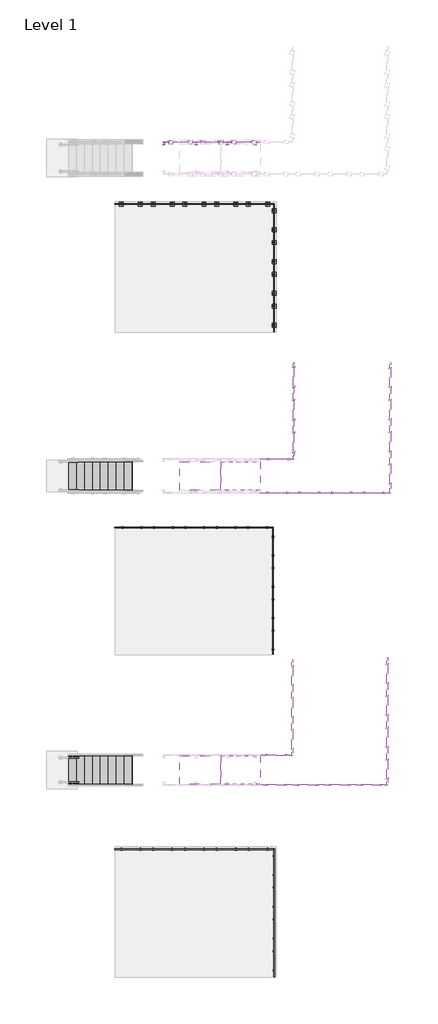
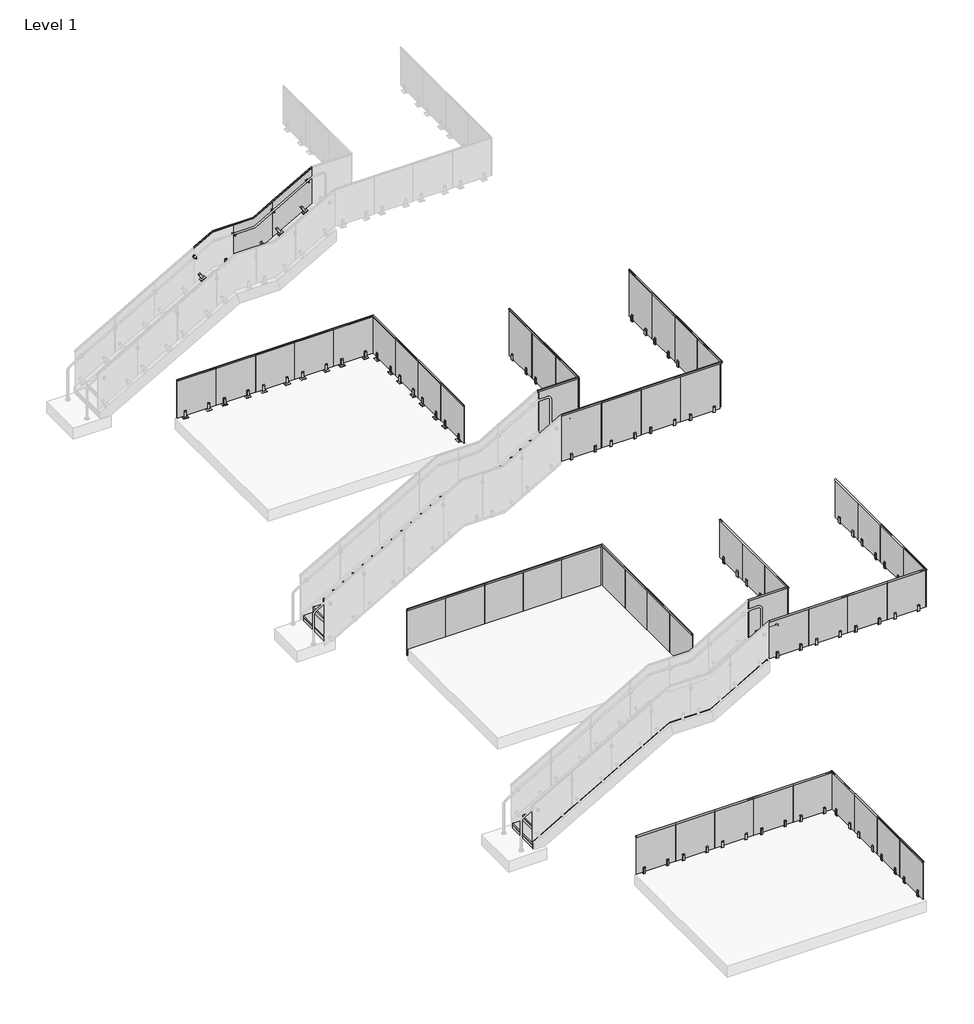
# One storey, part 16 of 17: 10 railings, 4 stair flights, 2 slabs.
"""IFC4 building model written with IfcOpenShell, lengths in millimetres."""

from ifc_helpers import new_model, si_unit, point, frame, frame_2d, origin, place, context, project, spatial, polyline, circle_curve, trimmed, segment, composite_curve, outline, extrude, faceted_brep, transform, mapped, element, save
from ifc_brep_helpers import plane_surface, cylinder_surface, revolved_surface, advanced_brep
from components import railing_c612db08, railing_e7858bb1, railing_b285644a, railing_d0d42c22, railing_5af45680, railing_caa6281a, railing_009aba57, standard_glass_13887297, non_monolithic_landing_f4672ff2, non_monolithic_landing_0b36ebb0, stair_flight_e342edde, stair_flight_a8a5efef, stair_flight_8ad0e3ce, stair_flight_972f2d04

model = new_model("IFC4")

# Units and contexts
model_context = context("Model", 3, world=origin())
ifc_project = project(units=[si_unit("LENGTHUNIT", "METRE", prefix="MILLI")], contexts=[model_context])

# Site, building, storey
site = spatial("IfcSite", under=ifc_project)
building = spatial("IfcBuilding", under=site)
storey = spatial("IfcBuildingStorey", under=building, Name="Level 1", Elevation=0.0)

# Railings
placement = place(None, origin())
element("IfcRailing", 1, ObjectType="VIVA-VISIO-Glass-Concrete Surface Mount-Stair_Upper", at=placement, inside=storey, context=model_context, shape_type="SolidModel", body=[
    faceted_brep([(29407.4425061, -1405.5829549, 3542.8464286), (29407.4425061, -1383.8540486, 3542.8464286), (29407.4425061, -1383.8540486, 3513.5919505), (29407.4425061, -1388.3685017, 3513.5919505), (29407.4425061, -1388.3685017, 3538.4582569), (29407.4425061, -1401.0685017, 3538.4582569), (29407.4425061, -1401.0685017, 3513.5919505), (29407.4425061, -1405.5829549, 3513.5919505), (30452.8112561, -1405.5829549, 4140.2), (30452.8112561, -1405.5829549, 4110.9455219), (30452.8112561, -1401.0685017, 4110.9455219), (30452.8112561, -1401.0685017, 4135.8118283), (30452.8112561, -1388.3685017, 4135.8118283), (30452.8112561, -1388.3685017, 4110.9455219), (30452.8112561, -1383.8540486, 4110.9455219), (30452.8112561, -1383.8540486, 4140.2)], [[[0, 1, 2, 3, 4, 5, 6, 7]], [[8, 9, 10, 11, 12, 13, 14, 15]], [[1, 0, 8, 15]], [[2, 1, 15, 14]], [[3, 2, 14, 13]], [[4, 3, 13, 12]], [[5, 4, 12, 11]], [[6, 5, 11, 10]], [[7, 6, 10, 9]], [[0, 7, 9, 8]]]),
    extrude(outline(polyline([(0.0, -127.0000001), (0.0, 0.0), (127.0, 0.0), (127.0, -127.0000001), (0.0, -127.0000001)])), frame((30205.7490665, -1458.2117549, 2941.2860023), z_axis=(-0.4961389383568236, 0.0, 0.8682431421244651), x_axis=(0.0, 1.0, 0.0)), (0.0, 0.0, 1.0), 12.7),
    extrude(outline(polyline([(0.0, -12.7), (0.0, 0.0), (50.8, 0.0), (50.8, -12.7), (0.0, -12.7)])), frame((30238.8291303, -1388.3617549, 2960.1888959), z_axis=(-0.49613893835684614, 0.0, 0.8682431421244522), x_axis=(0.8682431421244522, 0.0, 0.49613893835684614)), (0.0, 0.0, 1.0), 50.8),
    extrude(outline(polyline([(0.0, 0.0), (139.7, 0.0), (166.6875, -11.1125), (166.6875, -19.05), (0.0, -19.05), (0.0, 0.0)])), frame((30227.0148218, -1420.1117549, 2980.8639357), z_axis=(0.8682431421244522, 0.0, 0.49613893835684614), x_axis=(-0.49613893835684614, 0.0, 0.8682431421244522)), (0.0, 0.0, 1.0), 50.8),
    extrude(outline(polyline([(0.0, -50.8), (0.0, -31.75), (166.6875, -31.75), (166.6875, -39.6875), (139.7, -50.8), (0.0, -50.8)])), frame((30227.0148218, -1420.1117549, 2980.8639357), z_axis=(0.8682431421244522, 0.0, 0.49613893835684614), x_axis=(-0.49613893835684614, 0.0, 0.8682431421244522)), (0.0, 0.0, 1.0), 50.8),
    extrude(outline(polyline([(4136.1482161, 30449.2255527), (3555.5767875, 29433.2255527), (2556.7751106, 29433.2255527), (3137.3465392, 30449.2255527), (4136.1482161, 30449.2255527)])), frame((0.0, -1401.0617549, 0.0), z_axis=(0.0, 1.0, 0.0), x_axis=(0.0, 0.0, 1.0)), (0.0, 0.0, 1.0), 12.7),
    extrude(outline(polyline([(0.0, -127.0000001), (0.0, 0.0), (127.0, 0.0), (127.0, -127.0000001), (0.0, -127.0000001)])), frame((29565.6690665, -1458.2117549, 2575.5260023), z_axis=(-0.4961389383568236, 0.0, 0.8682431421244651), x_axis=(0.0, 1.0, 0.0)), (0.0, 0.0, 1.0), 12.7),
    extrude(outline(polyline([(0.0, -12.7), (0.0, 0.0), (50.8, 0.0), (50.8, -12.7), (0.0, -12.7)])), frame((29598.7491303, -1388.3617549, 2594.4288959), z_axis=(-0.49613893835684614, 0.0, 0.8682431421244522), x_axis=(0.8682431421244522, 0.0, 0.49613893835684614)), (0.0, 0.0, 1.0), 50.8),
    extrude(outline(polyline([(0.0, 0.0), (139.7, 0.0), (166.6875, -11.1125), (166.6875, -19.05), (0.0, -19.05), (0.0, 0.0)])), frame((29586.9348218, -1420.1117549, 2615.1039357), z_axis=(0.8682431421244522, 0.0, 0.49613893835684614), x_axis=(-0.49613893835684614, 0.0, 0.8682431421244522)), (0.0, 0.0, 1.0), 50.8),
    extrude(outline(polyline([(0.0, -50.8), (0.0, -31.75), (166.6875, -31.75), (166.6875, -39.6875), (139.7, -50.8), (0.0, -50.8)])), frame((29586.9348218, -1420.1117549, 2615.1039357), z_axis=(0.8682431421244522, 0.0, 0.49613893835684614), x_axis=(-0.49613893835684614, 0.0, 0.8682431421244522)), (0.0, 0.0, 1.0), 50.8),
    extrude(outline(composite_curve([segment(trimmed(circle_curve(frame_2d((0.0, 7.0)), 7.0), [point((0.0, 14.0))], [point((0.0, 0.0))], False, "CARTESIAN"), True, "CONTINUOUS"), segment(trimmed(circle_curve(frame_2d((0.0, 7.0)), 7.0), [point((0.0, 0.0))], [point((0.0, 14.0))], False, "CARTESIAN"), True, "CONTINUOUS")], self_intersect=False)), frame((30334.6386992, -1469.9316158, 3785.9221988), z_axis=(-0.5018548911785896, 0.0, 0.8649518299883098), x_axis=(-0.8649518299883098, 0.0, -0.5018548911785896)), (0.0, 0.0, 1.0), 52.8378352),
    extrude(outline(composite_curve([segment(polyline([(5.2466064, -13.9247915), (4.2292194, -14.9511811)]), True, "CONTINUOUS"), segment(trimmed(circle_curve(frame_2d((3.1638975, -13.8952033)), 1.5), [point((4.2292194, -14.9511811))], [point((2.0329757, -14.8806047))], False, "CARTESIAN"), True, "CONTINUOUS"), segment(trimmed(circle_curve(frame_2d((18.6575252, -0.3952033)), 22.05), [point((2.0329757, -14.8806047))], [point((2.0329757, 14.0901982))], False, "CARTESIAN"), True, "CONTINUOUS"), segment(trimmed(circle_curve(frame_2d((3.1638975, 13.1047967)), 1.5), [point((2.0329757, 14.0901982))], [point((4.2292194, 14.1607746))], False, "CARTESIAN"), True, "CONTINUOUS"), segment(polyline([(4.2292194, 14.1607746), (5.2466064, 13.134385)]), True, "CONTINUOUS"), segment(trimmed(circle_curve(frame_2d((18.6575252, -0.3952033)), 19.05), [point((5.2466064, 13.134385))], [point((5.2466064, -13.9247915))], True, "CARTESIAN"), True, "CONTINUOUS")], self_intersect=False)), frame((30270.1709172, -1478.6588481, 3813.6633816), z_axis=(0.8664916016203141, 0.0, 0.49919165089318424), x_axis=(-0.49919165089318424, 0.0, 0.8664916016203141)), (0.0, 0.0, 1.0), 74.5229187),
    extrude(outline(composite_curve([segment(trimmed(circle_curve(frame_2d((3808.0587143, 30321.8425061)), 11.0132813), [point((3808.0587143, 30332.8557873))], [point((3808.0587143, 30310.8292248))], False, "CARTESIAN"), True, "CONTINUOUS"), segment(trimmed(circle_curve(frame_2d((3808.0587143, 30321.8425061)), 11.0132813), [point((3808.0587143, 30310.8292248))], [point((3808.0587143, 30332.8557873))], False, "CARTESIAN"), True, "CONTINUOUS")], self_intersect=False)), frame((0.0, -1489.9617549, 0.0), z_axis=(0.0, 1.0, 0.0), x_axis=(0.0, 0.0, 1.0)), (0.0, 0.0, 1.0), 79.2757812),
    advanced_brep(
    [(30321.8425061, -1378.7375361, 3808.0587143), (30321.8425061, -1378.7375361, 3771.9430893), (30321.8425061, -1378.7375361, 3844.1743393), (30321.8425061, -1410.6859736, 3771.9430893), (30321.8425061, -1410.6859736, 3808.0587143), (30321.8425061, -1410.6859736, 3844.1743393), (30321.8425061, -1408.7015986, 3769.9587143), (30321.8425061, -1408.7015986, 3846.1587143), (30321.8425061, -1401.0617549, 3769.9587143), (30321.8425061, -1401.0617549, 3846.1587143), (30321.8425061, -1401.0617549, 3795.3587143), (30321.8425061, -1401.0617549, 3820.7587143), (30321.8425061, -1388.3617549, 3795.3587143), (30321.8425061, -1388.3617549, 3820.7587143), (30321.8425061, -1388.3617549, 3769.9587143), (30321.8425061, -1388.3617549, 3846.1587143), (30321.8425061, -1380.7219111, 3769.9587143), (30321.8425061, -1380.7219111, 3846.1587143)],
    [
        (0, 1),
        (1, 2, circle_curve(frame((30321.8425061, -1378.7375361, 3808.0587143), z_axis=(0.0, 1.0, 0.0), x_axis=(0.0, 0.0, 1.0)), 36.115625)),
        (2, 0),
        (2, 1, circle_curve(frame((30321.8425061, -1378.7375361, 3808.0587143), z_axis=(0.0, 1.0, 0.0), x_axis=(0.0, 0.0, 1.0)), 36.115625)),
        (3, 4),
        (4, 5),
        (5, 3, circle_curve(frame((30321.8425061, -1410.6859736, 3808.0587143), z_axis=(0.0, -1.0, 0.0), x_axis=(0.0, 0.0, 1.0)), 36.115625)),
        (3, 5, circle_curve(frame((30321.8425061, -1410.6859736, 3808.0587143), z_axis=(0.0, -1.0, 0.0), x_axis=(0.0, 0.0, 1.0)), 36.115625)),
        (6, 3),
        (5, 7),
        (7, 6, circle_curve(frame((30321.8425061, -1408.7015986, 3808.0587143), z_axis=(0.0, -1.0, 0.0), x_axis=(0.0, 0.0, 1.0)), 38.1)),
        (6, 7, circle_curve(frame((30321.8425061, -1408.7015986, 3808.0587143), z_axis=(0.0, -1.0, 0.0), x_axis=(0.0, 0.0, 1.0)), 38.1)),
        (8, 6),
        (7, 9),
        (9, 8, circle_curve(frame((30321.8425061, -1401.0617549, 3808.0587143), z_axis=(0.0, -1.0, 0.0), x_axis=(0.0, 0.0, 1.0)), 38.1)),
        (8, 9, circle_curve(frame((30321.8425061, -1401.0617549, 3808.0587143), z_axis=(0.0, -1.0, 0.0), x_axis=(0.0, 0.0, 1.0)), 38.1)),
        (10, 8),
        (9, 11),
        (11, 10, circle_curve(frame((30321.8425061, -1401.0617549, 3808.0587143), z_axis=(0.0, -1.0, 0.0), x_axis=(0.0, 0.0, 1.0)), 12.7)),
        (10, 11, circle_curve(frame((30321.8425061, -1401.0617549, 3808.0587143), z_axis=(0.0, -1.0, 0.0), x_axis=(0.0, 0.0, 1.0)), 12.7)),
        (12, 10),
        (11, 13),
        (13, 12, circle_curve(frame((30321.8425061, -1388.3617549, 3808.0587143), z_axis=(0.0, -1.0, 0.0), x_axis=(0.0, 0.0, 1.0)), 12.7)),
        (12, 13, circle_curve(frame((30321.8425061, -1388.3617549, 3808.0587143), z_axis=(0.0, -1.0, 0.0), x_axis=(0.0, 0.0, 1.0)), 12.7)),
        (14, 12),
        (13, 15),
        (15, 14, circle_curve(frame((30321.8425061, -1388.3617549, 3808.0587143), z_axis=(0.0, -1.0, 0.0), x_axis=(0.0, 0.0, 1.0)), 38.1)),
        (14, 15, circle_curve(frame((30321.8425061, -1388.3617549, 3808.0587143), z_axis=(0.0, -1.0, 0.0), x_axis=(0.0, 0.0, 1.0)), 38.1)),
        (16, 14),
        (15, 17),
        (17, 16, circle_curve(frame((30321.8425061, -1380.7219111, 3808.0587143), z_axis=(0.0, -1.0, 0.0), x_axis=(0.0, 0.0, 1.0)), 38.1)),
        (16, 17, circle_curve(frame((30321.8425061, -1380.7219111, 3808.0587143), z_axis=(0.0, -1.0, 0.0), x_axis=(0.0, 0.0, 1.0)), 38.1)),
        (1, 16),
        (17, 2),
    ],
    [
        plane_surface(frame((30321.8425061, -1378.7375361, 3808.0587143), z_axis=(0.0, 1.0, 0.0), x_axis=(0.0, 0.0, 1.0))),
        plane_surface(frame((30321.8425061, -1410.6859736, 3808.0587143), z_axis=(0.0, -1.0, 0.0), x_axis=(0.0, 0.0, 1.0))),
        revolved_surface(polyline([(30321.8425061, -1410.6859736, 3844.1743393), (30321.8425061, -1408.7015986, 3846.1587143)]), (30321.8425061, -1342.6219111, 3808.0587143), (0.0, 1.0, 0.0)),
        cylinder_surface(frame((30321.8425061, -1342.6219111, 3808.0587143), z_axis=(0.0, 1.0, 0.0), x_axis=(0.0, 0.0, 1.0)), 38.1),
        plane_surface(frame((30321.8425061, -1401.0617549, 3808.0587143), z_axis=(0.0, 1.0, 0.0), x_axis=(0.0, 0.0, 1.0))),
        cylinder_surface(frame((30321.8425061, -1342.6219111, 3808.0587143), z_axis=(0.0, 1.0, 0.0), x_axis=(0.0, 0.0, 1.0)), 12.7),
        plane_surface(frame((30321.8425061, -1388.3617549, 3808.0587143), z_axis=(0.0, -1.0, 0.0), x_axis=(0.0, 0.0, 1.0))),
        revolved_surface(polyline([(30321.8425061, -1380.7219111, 3846.1587143), (30321.8425061, -1378.7375361, 3844.1743393)]), (30321.8425061, -1342.6219111, 3808.0587143), (0.0, 1.0, 0.0)),
    ],
    [
        (0, [[1, 2, 3]]),
        (0, [[-3, 4, -1]]),
        (1, [[5, 6, 7]]),
        (1, [[-6, -5, 8]]),
        (2, [[9, -7, 10, 11]]),
        (2, [[-10, -8, -9, 12]]),
        (3, [[13, -11, 14, 15]]),
        (3, [[-14, -12, -13, 16]]),
        (4, [[17, -15, 18, 19]]),
        (4, [[-18, -16, -17, 20]]),
        (5, [[21, -19, 22, 23]]),
        (5, [[-22, -20, -21, 24]]),
        (6, [[25, -23, 26, 27]]),
        (6, [[-26, -24, -25, 28]]),
        (3, [[29, -27, 30, 31]]),
        (3, [[-30, -28, -29, 32]]),
        (7, [[33, -31, 34, -2]]),
        (7, [[-34, -32, -33, -4]]),
    ],
),
])
element("IfcRailing", 2, ObjectType="VIVA-VISIO-Glass-Concrete Surface Mount-Landing", at=placement, inside=storey, context=model_context, shape_type="SolidModel", body=[
    faceted_brep([(29408.2362561, -1405.5829549, 3543.3), (29408.2362561, -1405.5829549, 3514.0455219), (29408.2362561, -1401.0685017, 3514.0455219), (29408.2362561, -1401.0685017, 3538.9118283), (29408.2362561, -1388.3685017, 3538.9118283), (29408.2362561, -1388.3685017, 3514.0455219), (29408.2362561, -1383.8540486, 3514.0455219), (29408.2362561, -1383.8540486, 3543.3), (27395.2862561, -1383.8540486, 3002.6428571), (27395.2862561, -1405.5829549, 3002.6428571), (27862.0112561, -1405.5829549, 3269.3428571), (27862.0112561, -1383.8540486, 3269.3428571), (27407.8863063, -1383.8540486, 2980.5884077), (27868.7565928, -1383.8540486, 3243.9428571), (27407.8863063, -1388.3685017, 2980.5884077), (27868.7565928, -1388.3685017, 3243.9428571), (27397.1762636, -1388.3685017, 2999.3346897), (27863.0230566, -1388.3685017, 3265.5328571), (27397.1762636, -1401.0685017, 2999.3346897), (27863.0230566, -1401.0685017, 3265.5328571), (27407.8863063, -1401.0685017, 2980.5884077), (27868.7565928, -1401.0685017, 3243.9428571), (27407.8863063, -1405.5829549, 2980.5884077), (27868.7565928, -1405.5829549, 3243.9428571), (28928.8112561, -1405.5829549, 3269.3428571), (28928.8112561, -1383.8540486, 3269.3428571), (28935.5565928, -1383.8540486, 3243.9428571), (28935.5565928, -1388.3685017, 3243.9428571), (28929.8230566, -1388.3685017, 3265.5328571), (28929.8230566, -1401.0685017, 3265.5328571), (28935.5565928, -1401.0685017, 3243.9428571), (28935.5565928, -1405.5829549, 3243.9428571), (27379.4112561, -1405.5829549, 2993.5732226), (27379.4112561, -1383.8540486, 2993.5732226), (27379.4112561, -1383.8540486, 2964.3201685), (27379.4112561, -1388.3685017, 2964.3201685), (27379.4112561, -1388.3685017, 2989.1852645), (27379.4112561, -1401.0685017, 2989.1852645), (27379.4112561, -1401.0685017, 2964.3201685), (27379.4112561, -1405.5829549, 2964.3201685)], [[[0, 1, 2, 3, 4, 5, 6, 7]], [[8, 9, 10, 11]], [[12, 8, 11, 13]], [[14, 12, 13, 15]], [[16, 14, 15, 17]], [[18, 16, 17, 19]], [[20, 18, 19, 21]], [[22, 20, 21, 23]], [[9, 22, 23, 10]], [[11, 10, 24, 25]], [[13, 11, 25, 26]], [[15, 13, 26, 27]], [[17, 15, 27, 28]], [[19, 17, 28, 29]], [[21, 19, 29, 30]], [[23, 21, 30, 31]], [[10, 23, 31, 24]], [[25, 24, 0, 7]], [[26, 25, 7, 6]], [[27, 26, 6, 5]], [[28, 27, 5, 4]], [[29, 28, 4, 3]], [[30, 29, 3, 2]], [[31, 30, 2, 1]], [[24, 31, 1, 0]], [[32, 33, 34, 35, 36, 37, 38, 39]], [[33, 32, 9, 8]], [[34, 33, 8, 12]], [[35, 34, 12, 14]], [[36, 35, 14, 16]], [[37, 36, 16, 18]], [[38, 37, 18, 20]], [[39, 38, 20, 22]], [[32, 39, 22, 9]]]),
    extrude(outline(polyline([(0.0, -127.0000001), (0.0, 0.0), (127.0, 0.0), (127.0, -127.0000001), (0.0, -127.0000001)])), frame((29151.8078165, -1458.2117549, 2339.0338595), z_axis=(-0.4961389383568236, 0.0, 0.8682431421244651), x_axis=(0.0, 1.0, 0.0)), (0.0, 0.0, 1.0), 12.7),
    extrude(outline(polyline([(0.0, -12.7), (0.0, 0.0), (50.8, 0.0), (50.8, -12.7), (0.0, -12.7)])), frame((29184.8878803, -1388.3617549, 2357.936753), z_axis=(-0.49613893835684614, 0.0, 0.8682431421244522), x_axis=(0.8682431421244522, 0.0, 0.49613893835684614)), (0.0, 0.0, 1.0), 50.8),
    extrude(outline(polyline([(0.0, 0.0), (139.7, 0.0), (166.6875, -11.1125), (166.6875, -19.05), (0.0, -19.05), (0.0, 0.0)])), frame((29173.0735718, -1420.1117549, 2378.6117929), z_axis=(0.8682431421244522, 0.0, 0.49613893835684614), x_axis=(-0.49613893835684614, 0.0, 0.8682431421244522)), (0.0, 0.0, 1.0), 50.8),
    extrude(outline(polyline([(0.0, -50.8), (0.0, -31.75), (166.6875, -31.75), (166.6875, -39.6875), (139.7, -50.8), (0.0, -50.8)])), frame((29173.0735718, -1420.1117549, 2378.6117929), z_axis=(0.8682431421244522, 0.0, 0.49613893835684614), x_axis=(-0.49613893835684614, 0.0, 0.8682431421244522)), (0.0, 0.0, 1.0), 50.8),
    extrude(outline(polyline([(28666.5562561, -1458.2117549), (28539.5562561, -1458.2117549), (28539.5562561, -1331.2117549), (28666.5562561, -1331.2117549), (28666.5562561, -1458.2117549)])), frame((0.0, 0.0, 2208.8928571), z_axis=(0.0, 0.0, 1.0), x_axis=(1.0, 0.0, 0.0)), (0.0, 0.0, 1.0), 12.7),
    extrude(outline(polyline([(28577.6562561, -1401.0617549), (28577.6562561, -1388.3617549), (28628.4562561, -1388.3617549), (28628.4562561, -1401.0617549), (28577.6562561, -1401.0617549)])), frame((0.0, 0.0, 2208.8928571), z_axis=(0.0, 0.0, 1.0), x_axis=(1.0, 0.0, 0.0)), (0.0, 0.0, 1.0), 50.8),
    extrude(outline(polyline([(-1420.1117549, 2232.7053571), (-1420.1117549, 2372.4053571), (-1408.9992549, 2399.3928571), (-1401.0617549, 2399.3928571), (-1401.0617549, 2232.7053571), (-1420.1117549, 2232.7053571)])), frame((28577.6562561, 0.0, 0.0), z_axis=(1.0, 0.0, 0.0), x_axis=(0.0, 1.0, 0.0)), (0.0, 0.0, 1.0), 50.8),
    extrude(outline(polyline([(-1369.3117549, 2232.7053571), (-1388.3617549, 2232.7053571), (-1388.3617549, 2399.3928571), (-1380.4242549, 2399.3928571), (-1369.3117549, 2372.4053571), (-1369.3117549, 2232.7053571)])), frame((28577.6562561, 0.0, 0.0), z_axis=(1.0, 0.0, 0.0), x_axis=(0.0, 1.0, 0.0)), (0.0, 0.0, 1.0), 50.8),
    extrude(outline(composite_curve([segment(trimmed(circle_curve(frame_2d((0.0, 7.0)), 7.0), [point((0.0, 14.0))], [point((0.0, 0.0))], False, "CARTESIAN"), True, "CONTINUOUS"), segment(trimmed(circle_curve(frame_2d((0.0, 7.0)), 7.0), [point((0.0, 0.0))], [point((0.0, 14.0))], False, "CARTESIAN"), True, "CONTINUOUS")], self_intersect=False)), frame((28401.7612561, -1469.9316158, 2982.4079722), z_axis=(-0.0016124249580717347, 0.0, 0.9999987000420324), x_axis=(-0.9999987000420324, 0.0, -0.0016124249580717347)), (0.0, 0.0, 1.0), 52.8378352),
    extrude(outline(composite_curve([segment(trimmed(circle_curve(frame_2d((18.6575252, 0.3952033)), 19.05), [point((5.2466064, 13.9247915))], [point((5.2466064, -13.134385))], True, "CARTESIAN"), True, "CONTINUOUS"), segment(polyline([(5.2466064, -13.134385), (4.2292193, -14.1607746)]), True, "CONTINUOUS"), segment(trimmed(circle_curve(frame_2d((3.1638974, -13.1047967)), 1.5), [point((4.2292193, -14.1607746))], [point((2.0329757, -14.0901982))], False, "CARTESIAN"), True, "CONTINUOUS"), segment(trimmed(circle_curve(frame_2d((18.6575252, 0.3952033)), 22.05), [point((2.0329757, -14.0901982))], [point((2.0329757, 14.8806047))], False, "CARTESIAN"), True, "CONTINUOUS"), segment(trimmed(circle_curve(frame_2d((3.1638974, 13.8952033)), 1.5), [point((2.0329757, 14.8806047))], [point((4.2292193, 14.9511811))], False, "CARTESIAN"), True, "CONTINUOUS"), segment(polyline([(4.2292193, 14.9511811), (5.2466064, 13.9247915)]), True, "CONTINUOUS")], self_intersect=False)), frame((28437.5288142, -1478.6588481, 3038.5796008), z_axis=(-0.9999989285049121, 0.0, 0.0014638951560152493), x_axis=(0.0014638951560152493, 0.0, 0.9999989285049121)), (0.0, 0.0, 1.0), 74.5229187),
    extrude(outline(composite_curve([segment(trimmed(circle_curve(frame_2d((3007.9768571, 28401.7612561)), 11.0132813), [point((3007.9768571, 28412.7745373))], [point((3007.9768571, 28390.7479748))], False, "CARTESIAN"), True, "CONTINUOUS"), segment(trimmed(circle_curve(frame_2d((3007.9768571, 28401.7612561)), 11.0132813), [point((3007.9768571, 28390.7479748))], [point((3007.9768571, 28412.7745373))], False, "CARTESIAN"), True, "CONTINUOUS")], self_intersect=False)), frame((0.0, -1489.9617549, 0.0), z_axis=(0.0, 1.0, 0.0), x_axis=(0.0, 0.0, 1.0)), (0.0, 0.0, 1.0), 79.2757812),
    advanced_brep(
    [(28401.7612561, -1378.7375361, 3007.9768571), (28401.7612561, -1378.7375361, 2971.8612321), (28401.7612561, -1378.7375361, 3044.0924821), (28401.7612561, -1410.6859736, 2971.8612321), (28401.7612561, -1410.6859736, 3007.9768571), (28401.7612561, -1410.6859736, 3044.0924821), (28401.7612561, -1408.7015986, 2969.8768571), (28401.7612561, -1408.7015986, 3046.0768571), (28401.7612561, -1401.0617549, 2969.8768571), (28401.7612561, -1401.0617549, 3046.0768571), (28401.7612561, -1401.0617549, 2995.2768571), (28401.7612561, -1401.0617549, 3020.6768571), (28401.7612561, -1388.3617549, 2995.2768571), (28401.7612561, -1388.3617549, 3020.6768571), (28401.7612561, -1388.3617549, 2969.8768571), (28401.7612561, -1388.3617549, 3046.0768571), (28401.7612561, -1380.7219111, 2969.8768571), (28401.7612561, -1380.7219111, 3046.0768571)],
    [
        (0, 1),
        (1, 2, circle_curve(frame((28401.7612561, -1378.7375361, 3007.9768571), z_axis=(0.0, 1.0, 0.0), x_axis=(0.0, 0.0, 1.0)), 36.115625)),
        (2, 0),
        (2, 1, circle_curve(frame((28401.7612561, -1378.7375361, 3007.9768571), z_axis=(0.0, 1.0, 0.0), x_axis=(0.0, 0.0, 1.0)), 36.115625)),
        (3, 4),
        (4, 5),
        (5, 3, circle_curve(frame((28401.7612561, -1410.6859736, 3007.9768571), z_axis=(0.0, -1.0, 0.0), x_axis=(0.0, 0.0, 1.0)), 36.115625)),
        (3, 5, circle_curve(frame((28401.7612561, -1410.6859736, 3007.9768571), z_axis=(0.0, -1.0, 0.0), x_axis=(0.0, 0.0, 1.0)), 36.115625)),
        (6, 3),
        (5, 7),
        (7, 6, circle_curve(frame((28401.7612561, -1408.7015986, 3007.9768571), z_axis=(0.0, -1.0, 0.0), x_axis=(0.0, 0.0, 1.0)), 38.1)),
        (6, 7, circle_curve(frame((28401.7612561, -1408.7015986, 3007.9768571), z_axis=(0.0, -1.0, 0.0), x_axis=(0.0, 0.0, 1.0)), 38.1)),
        (8, 6),
        (7, 9),
        (9, 8, circle_curve(frame((28401.7612561, -1401.0617549, 3007.9768571), z_axis=(0.0, -1.0, 0.0), x_axis=(0.0, 0.0, 1.0)), 38.1)),
        (8, 9, circle_curve(frame((28401.7612561, -1401.0617549, 3007.9768571), z_axis=(0.0, -1.0, 0.0), x_axis=(0.0, 0.0, 1.0)), 38.1)),
        (10, 8),
        (9, 11),
        (11, 10, circle_curve(frame((28401.7612561, -1401.0617549, 3007.9768571), z_axis=(0.0, -1.0, 0.0), x_axis=(0.0, 0.0, 1.0)), 12.7)),
        (10, 11, circle_curve(frame((28401.7612561, -1401.0617549, 3007.9768571), z_axis=(0.0, -1.0, 0.0), x_axis=(0.0, 0.0, 1.0)), 12.7)),
        (12, 10),
        (11, 13),
        (13, 12, circle_curve(frame((28401.7612561, -1388.3617549, 3007.9768571), z_axis=(0.0, -1.0, 0.0), x_axis=(0.0, 0.0, 1.0)), 12.7)),
        (12, 13, circle_curve(frame((28401.7612561, -1388.3617549, 3007.9768571), z_axis=(0.0, -1.0, 0.0), x_axis=(0.0, 0.0, 1.0)), 12.7)),
        (14, 12),
        (13, 15),
        (15, 14, circle_curve(frame((28401.7612561, -1388.3617549, 3007.9768571), z_axis=(0.0, -1.0, 0.0), x_axis=(0.0, 0.0, 1.0)), 38.1)),
        (14, 15, circle_curve(frame((28401.7612561, -1388.3617549, 3007.9768571), z_axis=(0.0, -1.0, 0.0), x_axis=(0.0, 0.0, 1.0)), 38.1)),
        (16, 14),
        (15, 17),
        (17, 16, circle_curve(frame((28401.7612561, -1380.7219111, 3007.9768571), z_axis=(0.0, -1.0, 0.0), x_axis=(0.0, 0.0, 1.0)), 38.1)),
        (16, 17, circle_curve(frame((28401.7612561, -1380.7219111, 3007.9768571), z_axis=(0.0, -1.0, 0.0), x_axis=(0.0, 0.0, 1.0)), 38.1)),
        (1, 16),
        (17, 2),
    ],
    [
        plane_surface(frame((28401.7612561, -1378.7375361, 3007.9768571), z_axis=(0.0, 1.0, 0.0), x_axis=(0.0, 0.0, 1.0))),
        plane_surface(frame((28401.7612561, -1410.6859736, 3007.9768571), z_axis=(0.0, -1.0, 0.0), x_axis=(0.0, 0.0, 1.0))),
        revolved_surface(polyline([(28401.7612561, -1410.6859736, 3044.0924821), (28401.7612561, -1408.7015986, 3046.0768571)]), (28401.7612561, -1342.6219111, 3007.9768571), (0.0, 1.0, 0.0)),
        cylinder_surface(frame((28401.7612561, -1342.6219111, 3007.9768571), z_axis=(0.0, 1.0, 0.0), x_axis=(0.0, 0.0, 1.0)), 38.1),
        plane_surface(frame((28401.7612561, -1401.0617549, 3007.9768571), z_axis=(0.0, 1.0, 0.0), x_axis=(0.0, 0.0, 1.0))),
        cylinder_surface(frame((28401.7612561, -1342.6219111, 3007.9768571), z_axis=(0.0, 1.0, 0.0), x_axis=(0.0, 0.0, 1.0)), 12.7),
        plane_surface(frame((28401.7612561, -1388.3617549, 3007.9768571), z_axis=(0.0, -1.0, 0.0), x_axis=(0.0, 0.0, 1.0))),
        revolved_surface(polyline([(28401.7612561, -1380.7219111, 3046.0768571), (28401.7612561, -1378.7375361, 3044.0924821)]), (28401.7612561, -1342.6219111, 3007.9768571), (0.0, 1.0, 0.0)),
    ],
    [
        (0, [[1, 2, 3]]),
        (0, [[-3, 4, -1]]),
        (1, [[5, 6, 7]]),
        (1, [[-6, -5, 8]]),
        (2, [[9, -7, 10, 11]]),
        (2, [[-10, -8, -9, 12]]),
        (3, [[13, -11, 14, 15]]),
        (3, [[-14, -12, -13, 16]]),
        (4, [[17, -15, 18, 19]]),
        (4, [[-18, -16, -17, 20]]),
        (5, [[21, -19, 22, 23]]),
        (5, [[-22, -20, -21, 24]]),
        (6, [[25, -23, 26, 27]]),
        (6, [[-26, -24, -25, 28]]),
        (3, [[29, -27, 30, 31]]),
        (3, [[-30, -28, -29, 32]]),
        (7, [[33, -31, 34, -2]]),
        (7, [[-34, -32, -33, -4]]),
    ],
),
    extrude(outline(polyline([(28263.9662561, -1458.2117549), (28136.9662561, -1458.2117549), (28136.9662561, -1331.2117549), (28263.9662561, -1331.2117549), (28263.9662561, -1458.2117549)])), frame((0.0, 0.0, 2208.8928571), z_axis=(0.0, 0.0, 1.0), x_axis=(1.0, 0.0, 0.0)), (0.0, 0.0, 1.0), 12.7),
    extrude(outline(polyline([(28175.0662561, -1401.0617549), (28175.0662561, -1388.3617549), (28225.8662561, -1388.3617549), (28225.8662561, -1401.0617549), (28175.0662561, -1401.0617549)])), frame((0.0, 0.0, 2208.8928571), z_axis=(0.0, 0.0, 1.0), x_axis=(1.0, 0.0, 0.0)), (0.0, 0.0, 1.0), 50.8),
    extrude(outline(polyline([(-1420.1117549, 2232.7053571), (-1420.1117549, 2372.4053571), (-1408.9992549, 2399.3928571), (-1401.0617549, 2399.3928571), (-1401.0617549, 2232.7053571), (-1420.1117549, 2232.7053571)])), frame((28175.0662561, 0.0, 0.0), z_axis=(1.0, 0.0, 0.0), x_axis=(0.0, 1.0, 0.0)), (0.0, 0.0, 1.0), 50.8),
    extrude(outline(polyline([(-1369.3117549, 2232.7053571), (-1388.3617549, 2232.7053571), (-1388.3617549, 2399.3928571), (-1380.4242549, 2399.3928571), (-1369.3117549, 2372.4053571), (-1369.3117549, 2232.7053571)])), frame((28175.0662561, 0.0, 0.0), z_axis=(1.0, 0.0, 0.0), x_axis=(0.0, 1.0, 0.0)), (0.0, 0.0, 1.0), 50.8),
    extrude(outline(polyline([(0.0, -127.0000001), (0.0, 0.0), (127.0, 0.0), (127.0, -127.0000001), (0.0, -127.0000001)])), frame((27541.4478165, -1458.2117549, 2028.4281452), z_axis=(-0.4961389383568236, 0.0, 0.8682431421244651), x_axis=(0.0, 1.0, 0.0)), (0.0, 0.0, 1.0), 12.7),
    extrude(outline(polyline([(0.0, -12.7), (0.0, 0.0), (50.8, 0.0), (50.8, -12.7), (0.0, -12.7)])), frame((27574.5278803, -1388.3617549, 2047.3310387), z_axis=(-0.49613893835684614, 0.0, 0.8682431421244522), x_axis=(0.8682431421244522, 0.0, 0.49613893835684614)), (0.0, 0.0, 1.0), 50.8),
    extrude(outline(polyline([(0.0, 0.0), (139.7, 0.0), (166.6875, -11.1125), (166.6875, -19.05), (0.0, -19.05), (0.0, 0.0)])), frame((27562.7135718, -1420.1117549, 2068.0060786), z_axis=(0.8682431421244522, 0.0, 0.49613893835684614), x_axis=(-0.49613893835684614, 0.0, 0.8682431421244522)), (0.0, 0.0, 1.0), 50.8),
    extrude(outline(polyline([(0.0, -50.8), (0.0, -31.75), (166.6875, -31.75), (166.6875, -39.6875), (139.7, -50.8), (0.0, -50.8)])), frame((27562.7135718, -1420.1117549, 2068.0060786), z_axis=(0.8682431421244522, 0.0, 0.49613893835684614), x_axis=(-0.49613893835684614, 0.0, 0.8682431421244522)), (0.0, 0.0, 1.0), 50.8),
    extrude(outline(composite_curve([segment(trimmed(circle_curve(frame_2d((0.0, 7.0)), 7.0), [point((0.0, 14.0))], [point((0.0, 0.0))], False, "CARTESIAN"), True, "CONTINUOUS"), segment(trimmed(circle_curve(frame_2d((0.0, 7.0)), 7.0), [point((0.0, 0.0))], [point((0.0, 14.0))], False, "CARTESIAN"), True, "CONTINUOUS")], self_intersect=False)), frame((29433.7324492, -1469.9316158, 3271.1186273), z_axis=(-0.5018548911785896, 0.0, 0.8649518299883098), x_axis=(-0.8649518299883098, 0.0, -0.5018548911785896)), (0.0, 0.0, 1.0), 52.8378352),
    extrude(outline(composite_curve([segment(polyline([(5.2466064, -13.9247915), (4.2292193, -14.9511811)]), True, "CONTINUOUS"), segment(trimmed(circle_curve(frame_2d((3.1638974, -13.8952033)), 1.5), [point((4.2292193, -14.9511811))], [point((2.0329757, -14.8806047))], False, "CARTESIAN"), True, "CONTINUOUS"), segment(trimmed(circle_curve(frame_2d((18.6575251, -0.3952033)), 22.05), [point((2.0329757, -14.8806047))], [point((2.0329757, 14.0901982))], False, "CARTESIAN"), True, "CONTINUOUS"), segment(trimmed(circle_curve(frame_2d((3.1638974, 13.1047967)), 1.5), [point((2.0329757, 14.0901982))], [point((4.2292193, 14.1607746))], False, "CARTESIAN"), True, "CONTINUOUS"), segment(polyline([(4.2292193, 14.1607746), (5.2466064, 13.134385)]), True, "CONTINUOUS"), segment(trimmed(circle_curve(frame_2d((18.6575251, -0.3952033)), 19.05), [point((5.2466064, 13.134385))], [point((5.2466064, -13.9247915))], True, "CARTESIAN"), True, "CONTINUOUS")], self_intersect=False)), frame((29369.2646672, -1478.6588481, 3298.8598102), z_axis=(0.8664916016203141, 0.0, 0.49919165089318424), x_axis=(-0.49919165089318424, 0.0, 0.8664916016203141)), (0.0, 0.0, 1.0), 74.5229187),
    extrude(outline(composite_curve([segment(trimmed(circle_curve(frame_2d((3293.2551429, 29420.9362561)), 11.0132813), [point((3293.2551429, 29431.9495373))], [point((3293.2551429, 29409.9229748))], False, "CARTESIAN"), True, "CONTINUOUS"), segment(trimmed(circle_curve(frame_2d((3293.2551429, 29420.9362561)), 11.0132813), [point((3293.2551429, 29409.9229748))], [point((3293.2551429, 29431.9495373))], False, "CARTESIAN"), True, "CONTINUOUS")], self_intersect=False)), frame((0.0, -1489.9617549, 0.0), z_axis=(0.0, 1.0, 0.0), x_axis=(0.0, 0.0, 1.0)), (0.0, 0.0, 1.0), 79.2757812),
    advanced_brep(
    [(29420.9362561, -1378.7375361, 3293.2551429), (29420.9362561, -1378.7375361, 3257.1395179), (29420.9362561, -1378.7375361, 3329.3707679), (29420.9362561, -1410.6859736, 3257.1395179), (29420.9362561, -1410.6859736, 3293.2551429), (29420.9362561, -1410.6859736, 3329.3707679), (29420.9362561, -1408.7015986, 3255.1551429), (29420.9362561, -1408.7015986, 3331.3551429), (29420.9362561, -1401.0617549, 3255.1551429), (29420.9362561, -1401.0617549, 3331.3551429), (29420.9362561, -1401.0617549, 3280.5551429), (29420.9362561, -1401.0617549, 3305.9551429), (29420.9362561, -1388.3617549, 3280.5551429), (29420.9362561, -1388.3617549, 3305.9551429), (29420.9362561, -1388.3617549, 3255.1551429), (29420.9362561, -1388.3617549, 3331.3551429), (29420.9362561, -1380.7219111, 3255.1551429), (29420.9362561, -1380.7219111, 3331.3551429)],
    [
        (0, 1),
        (1, 2, circle_curve(frame((29420.9362561, -1378.7375361, 3293.2551429), z_axis=(0.0, 1.0, 0.0), x_axis=(0.0, 0.0, 1.0)), 36.115625)),
        (2, 0),
        (2, 1, circle_curve(frame((29420.9362561, -1378.7375361, 3293.2551429), z_axis=(0.0, 1.0, 0.0), x_axis=(0.0, 0.0, 1.0)), 36.115625)),
        (3, 4),
        (4, 5),
        (5, 3, circle_curve(frame((29420.9362561, -1410.6859736, 3293.2551429), z_axis=(0.0, -1.0, 0.0), x_axis=(0.0, 0.0, 1.0)), 36.115625)),
        (3, 5, circle_curve(frame((29420.9362561, -1410.6859736, 3293.2551429), z_axis=(0.0, -1.0, 0.0), x_axis=(0.0, 0.0, 1.0)), 36.115625)),
        (6, 3),
        (5, 7),
        (7, 6, circle_curve(frame((29420.9362561, -1408.7015986, 3293.2551429), z_axis=(0.0, -1.0, 0.0), x_axis=(0.0, 0.0, 1.0)), 38.1)),
        (6, 7, circle_curve(frame((29420.9362561, -1408.7015986, 3293.2551429), z_axis=(0.0, -1.0, 0.0), x_axis=(0.0, 0.0, 1.0)), 38.1)),
        (8, 6),
        (7, 9),
        (9, 8, circle_curve(frame((29420.9362561, -1401.0617549, 3293.2551429), z_axis=(0.0, -1.0, 0.0), x_axis=(0.0, 0.0, 1.0)), 38.1)),
        (8, 9, circle_curve(frame((29420.9362561, -1401.0617549, 3293.2551429), z_axis=(0.0, -1.0, 0.0), x_axis=(0.0, 0.0, 1.0)), 38.1)),
        (10, 8),
        (9, 11),
        (11, 10, circle_curve(frame((29420.9362561, -1401.0617549, 3293.2551429), z_axis=(0.0, -1.0, 0.0), x_axis=(0.0, 0.0, 1.0)), 12.7)),
        (10, 11, circle_curve(frame((29420.9362561, -1401.0617549, 3293.2551429), z_axis=(0.0, -1.0, 0.0), x_axis=(0.0, 0.0, 1.0)), 12.7)),
        (12, 10),
        (11, 13),
        (13, 12, circle_curve(frame((29420.9362561, -1388.3617549, 3293.2551429), z_axis=(0.0, -1.0, 0.0), x_axis=(0.0, 0.0, 1.0)), 12.7)),
        (12, 13, circle_curve(frame((29420.9362561, -1388.3617549, 3293.2551429), z_axis=(0.0, -1.0, 0.0), x_axis=(0.0, 0.0, 1.0)), 12.7)),
        (14, 12),
        (13, 15),
        (15, 14, circle_curve(frame((29420.9362561, -1388.3617549, 3293.2551429), z_axis=(0.0, -1.0, 0.0), x_axis=(0.0, 0.0, 1.0)), 38.1)),
        (14, 15, circle_curve(frame((29420.9362561, -1388.3617549, 3293.2551429), z_axis=(0.0, -1.0, 0.0), x_axis=(0.0, 0.0, 1.0)), 38.1)),
        (16, 14),
        (15, 17),
        (17, 16, circle_curve(frame((29420.9362561, -1380.7219111, 3293.2551429), z_axis=(0.0, -1.0, 0.0), x_axis=(0.0, 0.0, 1.0)), 38.1)),
        (16, 17, circle_curve(frame((29420.9362561, -1380.7219111, 3293.2551429), z_axis=(0.0, -1.0, 0.0), x_axis=(0.0, 0.0, 1.0)), 38.1)),
        (1, 16),
        (17, 2),
    ],
    [
        plane_surface(frame((29420.9362561, -1378.7375361, 3293.2551429), z_axis=(0.0, 1.0, 0.0), x_axis=(0.0, 0.0, 1.0))),
        plane_surface(frame((29420.9362561, -1410.6859736, 3293.2551429), z_axis=(0.0, -1.0, 0.0), x_axis=(0.0, 0.0, 1.0))),
        revolved_surface(polyline([(29420.9362561, -1410.6859736, 3329.3707679), (29420.9362561, -1408.7015986, 3331.3551429)]), (29420.9362561, -1342.6219111, 3293.2551429), (0.0, 1.0, 0.0)),
        cylinder_surface(frame((29420.9362561, -1342.6219111, 3293.2551429), z_axis=(0.0, 1.0, 0.0), x_axis=(0.0, 0.0, 1.0)), 38.1),
        plane_surface(frame((29420.9362561, -1401.0617549, 3293.2551429), z_axis=(0.0, 1.0, 0.0), x_axis=(0.0, 0.0, 1.0))),
        cylinder_surface(frame((29420.9362561, -1342.6219111, 3293.2551429), z_axis=(0.0, 1.0, 0.0), x_axis=(0.0, 0.0, 1.0)), 12.7),
        plane_surface(frame((29420.9362561, -1388.3617549, 3293.2551429), z_axis=(0.0, -1.0, 0.0), x_axis=(0.0, 0.0, 1.0))),
        revolved_surface(polyline([(29420.9362561, -1380.7219111, 3331.3551429), (29420.9362561, -1378.7375361, 3329.3707679)]), (29420.9362561, -1342.6219111, 3293.2551429), (0.0, 1.0, 0.0)),
    ],
    [
        (0, [[1, 2, 3]]),
        (0, [[-3, 4, -1]]),
        (1, [[5, 6, 7]]),
        (1, [[-6, -5, 8]]),
        (2, [[9, -7, 10, 11]]),
        (2, [[-10, -8, -9, 12]]),
        (3, [[13, -11, 14, 15]]),
        (3, [[-14, -12, -13, 16]]),
        (4, [[17, -15, 18, 19]]),
        (4, [[-18, -16, -17, 20]]),
        (5, [[21, -19, 22, 23]]),
        (5, [[-22, -20, -21, 24]]),
        (6, [[25, -23, 26, 27]]),
        (6, [[-26, -24, -25, 28]]),
        (3, [[29, -27, 30, 31]]),
        (3, [[-30, -28, -29, 32]]),
        (7, [[33, -31, 34, -2]]),
        (7, [[-34, -32, -33, -4]]),
    ],
),
    extrude(outline(composite_curve([segment(trimmed(circle_curve(frame_2d((0.0, 7.0)), 7.0), [point((0.0, 14.0))], [point((0.0, 0.0))], False, "CARTESIAN"), True, "CONTINUOUS"), segment(trimmed(circle_curve(frame_2d((0.0, 7.0)), 7.0), [point((0.0, 0.0))], [point((0.0, 14.0))], False, "CARTESIAN"), True, "CONTINUOUS")], self_intersect=False)), frame((27395.3824492, -1469.9316158, 2715.9471988), z_axis=(-0.5018548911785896, 0.0, 0.8649518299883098), x_axis=(-0.8649518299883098, 0.0, -0.5018548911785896)), (0.0, 0.0, 1.0), 52.8378352),
    extrude(outline(composite_curve([segment(polyline([(5.2466064, -13.9247915), (4.2292194, -14.9511811)]), True, "CONTINUOUS"), segment(trimmed(circle_curve(frame_2d((3.1638975, -13.8952033)), 1.5), [point((4.2292194, -14.9511811))], [point((2.0329757, -14.8806047))], False, "CARTESIAN"), True, "CONTINUOUS"), segment(trimmed(circle_curve(frame_2d((18.6575252, -0.3952033)), 22.05), [point((2.0329757, -14.8806047))], [point((2.0329757, 14.0901982))], False, "CARTESIAN"), True, "CONTINUOUS"), segment(trimmed(circle_curve(frame_2d((3.1638975, 13.1047967)), 1.5), [point((2.0329757, 14.0901982))], [point((4.2292194, 14.1607746))], False, "CARTESIAN"), True, "CONTINUOUS"), segment(polyline([(4.2292194, 14.1607746), (5.2466064, 13.134385)]), True, "CONTINUOUS"), segment(trimmed(circle_curve(frame_2d((18.6575252, -0.3952033)), 19.05), [point((5.2466064, 13.134385))], [point((5.2466064, -13.9247915))], True, "CARTESIAN"), True, "CONTINUOUS")], self_intersect=False)), frame((27330.9146672, -1478.6588481, 2743.6883816), z_axis=(0.8664916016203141, 0.0, 0.49919165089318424), x_axis=(-0.49919165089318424, 0.0, 0.8664916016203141)), (0.0, 0.0, 1.0), 74.5229187),
    extrude(outline(composite_curve([segment(trimmed(circle_curve(frame_2d((2738.0837143, 27382.5862561)), 11.0132813), [point((2738.0837143, 27393.5995373))], [point((2738.0837143, 27371.5729748))], False, "CARTESIAN"), True, "CONTINUOUS"), segment(trimmed(circle_curve(frame_2d((2738.0837143, 27382.5862561)), 11.0132813), [point((2738.0837143, 27371.5729748))], [point((2738.0837143, 27393.5995373))], False, "CARTESIAN"), True, "CONTINUOUS")], self_intersect=False)), frame((0.0, -1489.9617549, 0.0), z_axis=(0.0, 1.0, 0.0), x_axis=(0.0, 0.0, 1.0)), (0.0, 0.0, 1.0), 79.2757812),
    advanced_brep(
    [(27382.5862561, -1378.7375361, 2738.0837143), (27382.5862561, -1378.7375361, 2701.9680893), (27382.5862561, -1378.7375361, 2774.1993393), (27382.5862561, -1410.6859736, 2701.9680893), (27382.5862561, -1410.6859736, 2738.0837143), (27382.5862561, -1410.6859736, 2774.1993393), (27382.5862561, -1408.7015986, 2699.9837143), (27382.5862561, -1408.7015986, 2776.1837143), (27382.5862561, -1401.0617549, 2699.9837143), (27382.5862561, -1401.0617549, 2776.1837143), (27382.5862561, -1401.0617549, 2725.3837143), (27382.5862561, -1401.0617549, 2750.7837143), (27382.5862561, -1388.3617549, 2725.3837143), (27382.5862561, -1388.3617549, 2750.7837143), (27382.5862561, -1388.3617549, 2699.9837143), (27382.5862561, -1388.3617549, 2776.1837143), (27382.5862561, -1380.7219111, 2699.9837143), (27382.5862561, -1380.7219111, 2776.1837143)],
    [
        (0, 1),
        (1, 2, circle_curve(frame((27382.5862561, -1378.7375361, 2738.0837143), z_axis=(0.0, 1.0, 0.0), x_axis=(0.0, 0.0, 1.0)), 36.115625)),
        (2, 0),
        (2, 1, circle_curve(frame((27382.5862561, -1378.7375361, 2738.0837143), z_axis=(0.0, 1.0, 0.0), x_axis=(0.0, 0.0, 1.0)), 36.115625)),
        (3, 4),
        (4, 5),
        (5, 3, circle_curve(frame((27382.5862561, -1410.6859736, 2738.0837143), z_axis=(0.0, -1.0, 0.0), x_axis=(0.0, 0.0, 1.0)), 36.115625)),
        (3, 5, circle_curve(frame((27382.5862561, -1410.6859736, 2738.0837143), z_axis=(0.0, -1.0, 0.0), x_axis=(0.0, 0.0, 1.0)), 36.115625)),
        (6, 3),
        (5, 7),
        (7, 6, circle_curve(frame((27382.5862561, -1408.7015986, 2738.0837143), z_axis=(0.0, -1.0, 0.0), x_axis=(0.0, 0.0, 1.0)), 38.1)),
        (6, 7, circle_curve(frame((27382.5862561, -1408.7015986, 2738.0837143), z_axis=(0.0, -1.0, 0.0), x_axis=(0.0, 0.0, 1.0)), 38.1)),
        (8, 6),
        (7, 9),
        (9, 8, circle_curve(frame((27382.5862561, -1401.0617549, 2738.0837143), z_axis=(0.0, -1.0, 0.0), x_axis=(0.0, 0.0, 1.0)), 38.1)),
        (8, 9, circle_curve(frame((27382.5862561, -1401.0617549, 2738.0837143), z_axis=(0.0, -1.0, 0.0), x_axis=(0.0, 0.0, 1.0)), 38.1)),
        (10, 8),
        (9, 11),
        (11, 10, circle_curve(frame((27382.5862561, -1401.0617549, 2738.0837143), z_axis=(0.0, -1.0, 0.0), x_axis=(0.0, 0.0, 1.0)), 12.7)),
        (10, 11, circle_curve(frame((27382.5862561, -1401.0617549, 2738.0837143), z_axis=(0.0, -1.0, 0.0), x_axis=(0.0, 0.0, 1.0)), 12.7)),
        (12, 10),
        (11, 13),
        (13, 12, circle_curve(frame((27382.5862561, -1388.3617549, 2738.0837143), z_axis=(0.0, -1.0, 0.0), x_axis=(0.0, 0.0, 1.0)), 12.7)),
        (12, 13, circle_curve(frame((27382.5862561, -1388.3617549, 2738.0837143), z_axis=(0.0, -1.0, 0.0), x_axis=(0.0, 0.0, 1.0)), 12.7)),
        (14, 12),
        (13, 15),
        (15, 14, circle_curve(frame((27382.5862561, -1388.3617549, 2738.0837143), z_axis=(0.0, -1.0, 0.0), x_axis=(0.0, 0.0, 1.0)), 38.1)),
        (14, 15, circle_curve(frame((27382.5862561, -1388.3617549, 2738.0837143), z_axis=(0.0, -1.0, 0.0), x_axis=(0.0, 0.0, 1.0)), 38.1)),
        (16, 14),
        (15, 17),
        (17, 16, circle_curve(frame((27382.5862561, -1380.7219111, 2738.0837143), z_axis=(0.0, -1.0, 0.0), x_axis=(0.0, 0.0, 1.0)), 38.1)),
        (16, 17, circle_curve(frame((27382.5862561, -1380.7219111, 2738.0837143), z_axis=(0.0, -1.0, 0.0), x_axis=(0.0, 0.0, 1.0)), 38.1)),
        (1, 16),
        (17, 2),
    ],
    [
        plane_surface(frame((27382.5862561, -1378.7375361, 2738.0837143), z_axis=(0.0, 1.0, 0.0), x_axis=(0.0, 0.0, 1.0))),
        plane_surface(frame((27382.5862561, -1410.6859736, 2738.0837143), z_axis=(0.0, -1.0, 0.0), x_axis=(0.0, 0.0, 1.0))),
        revolved_surface(polyline([(27382.5862561, -1410.6859736, 2774.1993393), (27382.5862561, -1408.7015986, 2776.1837143)]), (27382.5862561, -1342.6219111, 2738.0837143), (0.0, 1.0, 0.0)),
        cylinder_surface(frame((27382.5862561, -1342.6219111, 2738.0837143), z_axis=(0.0, 1.0, 0.0), x_axis=(0.0, 0.0, 1.0)), 38.1),
        plane_surface(frame((27382.5862561, -1401.0617549, 2738.0837143), z_axis=(0.0, 1.0, 0.0), x_axis=(0.0, 0.0, 1.0))),
        cylinder_surface(frame((27382.5862561, -1342.6219111, 2738.0837143), z_axis=(0.0, 1.0, 0.0), x_axis=(0.0, 0.0, 1.0)), 12.7),
        plane_surface(frame((27382.5862561, -1388.3617549, 2738.0837143), z_axis=(0.0, -1.0, 0.0), x_axis=(0.0, 0.0, 1.0))),
        revolved_surface(polyline([(27382.5862561, -1380.7219111, 2776.1837143), (27382.5862561, -1378.7375361, 2774.1993393)]), (27382.5862561, -1342.6219111, 2738.0837143), (0.0, 1.0, 0.0)),
    ],
    [
        (0, [[1, 2, 3]]),
        (0, [[-3, 4, -1]]),
        (1, [[5, 6, 7]]),
        (1, [[-6, -5, 8]]),
        (2, [[9, -7, 10, 11]]),
        (2, [[-10, -8, -9, 12]]),
        (3, [[13, -11, 14, 15]]),
        (3, [[-14, -12, -13, 16]]),
        (4, [[17, -15, 18, 19]]),
        (4, [[-18, -16, -17, 20]]),
        (5, [[21, -19, 22, 23]]),
        (5, [[-22, -20, -21, 24]]),
        (6, [[25, -23, 26, 27]]),
        (6, [[-26, -24, -25, 28]]),
        (3, [[29, -27, 30, 31]]),
        (3, [[-30, -28, -29, 32]]),
        (7, [[33, -31, 34, -2]]),
        (7, [[-34, -32, -33, -4]]),
    ],
),
])
railing_shape = railing_c612db08(model_context)
element("IfcRailing", 3, ObjectType="VIVA-VISIO-Glass-Concrete Surface Mount-Straight", at=placement, inside=storey, context=model_context, shape_type="MappedRepresentation", body=[
    mapped(railing_shape, transform((0.0, 0.0, 0.0), x_axis=(1.0, 0.0, 0.0), y_axis=(0.0, 1.0, 0.0), z_axis=(0.0, 0.0, 1.0))),
])
railing_2_shape = railing_e7858bb1(model_context)
element("IfcRailing", 4, ObjectType="VIVA-VISIO-Glass-Steel Fascia Mount-Straight", at=placement, inside=storey, context=model_context, shape_type="MappedRepresentation", body=[
    mapped(railing_2_shape, transform((0.0, 0.0, 0.0), x_axis=(1.0, 0.0, 0.0), y_axis=(0.0, 1.0, 0.0), z_axis=(0.0, 0.0, 1.0))),
])
railing_3_shape = railing_b285644a(model_context)
element("IfcRailing", 5, ObjectType="VIVA-VISIO-Glass-Steel Surface Mount-Straight", at=placement, inside=storey, context=model_context, shape_type="MappedRepresentation", body=[
    mapped(railing_3_shape, transform((0.0, 0.0, 0.0), x_axis=(1.0, 0.0, 0.0), y_axis=(0.0, 1.0, 0.0), z_axis=(0.0, 0.0, 1.0))),
])
railing_4_shape = railing_d0d42c22(model_context)
element("IfcRailing", 6, ObjectType="VIVA-VISIO-Glass-Steel Surface Mount-Straight", at=placement, inside=storey, context=model_context, shape_type="MappedRepresentation", body=[
    mapped(railing_4_shape, transform((0.0, 0.0, 0.0), x_axis=(1.0, 0.0, 0.0), y_axis=(0.0, 1.0, 0.0), z_axis=(0.0, 0.0, 1.0))),
])
railing_5_shape = railing_5af45680(model_context)
element("IfcRailing", 7, ObjectType="VIVA-VISIO-Glass-Steel Surface Mount-Straight", at=placement, inside=storey, context=model_context, shape_type="MappedRepresentation", body=[
    mapped(railing_5_shape, transform((0.0, 0.0, 0.0), x_axis=(1.0, 0.0, 0.0), y_axis=(0.0, 1.0, 0.0), z_axis=(0.0, 0.0, 1.0))),
])
railing_6_shape = railing_caa6281a(model_context)
element("IfcRailing", 8, ObjectType="VIVA-VISIO-Glass-Steel Fascia Mount-Straight", at=placement, inside=storey, context=model_context, shape_type="MappedRepresentation", body=[
    mapped(railing_6_shape, transform((0.0, 0.0, 0.0), x_axis=(1.0, 0.0, 0.0), y_axis=(0.0, 1.0, 0.0), z_axis=(0.0, 0.0, 1.0))),
])
railing_7_shape = railing_009aba57(model_context)
element("IfcRailing", 9, ObjectType="VIVA-VISIO-Glass-Steel Fascia Mount-Straight", at=placement, inside=storey, context=model_context, shape_type="MappedRepresentation", body=[
    mapped(railing_7_shape, transform((0.0, 0.0, 0.0), x_axis=(1.0, 0.0, 0.0), y_axis=(0.0, 1.0, 0.0), z_axis=(0.0, 0.0, 1.0))),
])
standard_glass_shape = standard_glass_13887297(model_context)
element("IfcRailing", 10, ObjectType="Baluster-Landing-Panel-VIVA-VISIO-Upper : Standard_Glass", at=placement, inside=storey, context=model_context, shape_type="MappedRepresentation", body=[
    mapped(standard_glass_shape, transform((29420.9362561, -1359.9290256, 2177.1428571), x_axis=(0.0, -1.0, 0.0), y_axis=(1.0, 0.0, 0.0), z_axis=(0.0, 0.0, 1.0))),
])

# Slabs
non_monolithic_landing_shape = non_monolithic_landing_f4672ff2(model_context)
element("IfcSlab", 11, ObjectType="Non-Monolithic Landing", at=placement, inside=storey, context=model_context, shape_type="MappedRepresentation", body=[
    mapped(non_monolithic_landing_shape, transform((0.0, 0.0, 0.0), x_axis=(1.0, 0.0, 0.0), y_axis=(0.0, 1.0, 0.0), z_axis=(0.0, 0.0, 1.0))),
])
non_monolithic_landing_2_shape = non_monolithic_landing_0b36ebb0(model_context)
element("IfcSlab", 12, ObjectType="Non-Monolithic Landing", at=placement, inside=storey, context=model_context, shape_type="MappedRepresentation", body=[
    mapped(non_monolithic_landing_2_shape, transform((0.0, 0.0, 0.0), x_axis=(1.0, 0.0, 0.0), y_axis=(0.0, 1.0, 0.0), z_axis=(0.0, 0.0, 1.0))),
])

# Stair flights
stair_flight_shape = stair_flight_e342edde(model_context)
element("IfcStairFlight", 13, ObjectType="2\" Tread 1/4\" Riser", at=placement, inside=storey, context=model_context, shape_type="MappedRepresentation", body=[
    mapped(stair_flight_shape, transform((0.0, 0.0, 0.0), x_axis=(1.0, 0.0, 0.0), y_axis=(0.0, 1.0, 0.0), z_axis=(0.0, 0.0, 1.0))),
])
stair_flight_2_shape = stair_flight_a8a5efef(model_context)
element("IfcStairFlight", 14, ObjectType="2\" Tread 1/4\" Riser", at=placement, inside=storey, context=model_context, shape_type="MappedRepresentation", body=[
    mapped(stair_flight_2_shape, transform((0.0, 0.0, 0.0), x_axis=(1.0, 0.0, 0.0), y_axis=(0.0, 1.0, 0.0), z_axis=(0.0, 0.0, 1.0))),
])
stair_flight_3_shape = stair_flight_8ad0e3ce(model_context)
element("IfcStairFlight", 15, ObjectType="2\" Tread 1/4\" Riser", at=placement, inside=storey, context=model_context, shape_type="MappedRepresentation", body=[
    mapped(stair_flight_3_shape, transform((0.0, 0.0, 0.0), x_axis=(1.0, 0.0, 0.0), y_axis=(0.0, 1.0, 0.0), z_axis=(0.0, 0.0, 1.0))),
])
stair_flight_4_shape = stair_flight_972f2d04(model_context)
element("IfcStairFlight", 16, ObjectType="2\" Tread 1/4\" Riser", at=placement, inside=storey, context=model_context, shape_type="MappedRepresentation", body=[
    mapped(stair_flight_4_shape, transform((0.0, 0.0, 0.0), x_axis=(1.0, 0.0, 0.0), y_axis=(0.0, 1.0, 0.0), z_axis=(0.0, 0.0, 1.0))),
])

save(model, "model.ifc")
